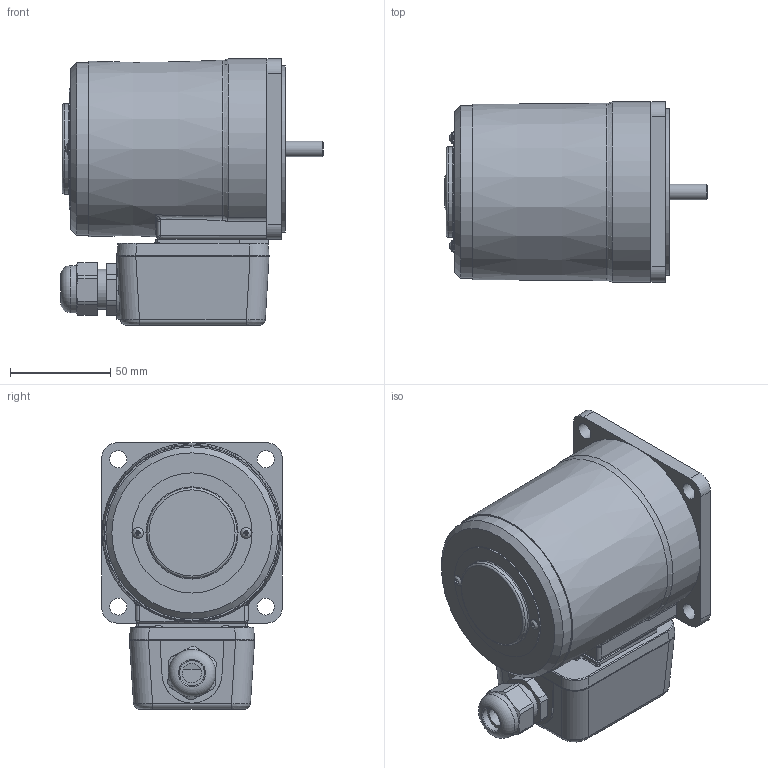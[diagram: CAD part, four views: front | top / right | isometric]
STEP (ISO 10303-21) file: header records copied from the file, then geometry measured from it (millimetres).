
FILE_DESCRIPTION(/* description */ (''),/* implementation_level */ '2;1');
FILE_NAME(/* name */ 'E:\도면작업\2016\0704) 미주향 SG 도면\3D MOTOR\TERMINAL BOX TYPE\REVERSIBLE TERMINAL BOX\SG9R40G_-T.stp',/* time_stamp */ '2017-01-24T11:25:37+09:00',/* author */ ('jy-jung'),/* organization */ (''),/* preprocessor_version */ 'ST-DEVELOPER v15.6',/* originating_system */ 'Autodesk Inventor 2015',/* authorisation */ '');
FILE_SCHEMA (('AUTOMOTIVE_DESIGN { 1 0 10303 214 3 1 1 }'));
Length unit declared in the file: millimetre
Products named in the file (1): 부품1
Bounding box: 131.1 x 90 x 133 mm (x, y, z)
Volume: 853738.2 mm3; surface area: 74508.5 mm2
Topology: 1 solids, 12 shells, 422 faces, 1043 edges, 664 vertices
Faces by surface type: plane 225, cylinder 114, bspline 52, torus 26, cone 5
Full cylindrical faces by diameter (mm): 2.55 x2, 3 x2, 3.5 x2, 5.6 x6, 6.3 x4, 7.62 x1, 8.5 x4, 12.5 x1, 15 x1, 20 x2, 21 x1, 23.6 x1, 40 x1, 43 x1, 45 x1, 60 x1, 83 x1, 86 x1
Entity records: 14350 total; most frequent: CARTESIAN_POINT 4506, ORIENTED_EDGE 1930, DIRECTION 1846, EDGE_CURVE 965, AXIS2_PLACEMENT_3D 664, VERTEX_POINT 649, LINE 518, VECTOR 518
